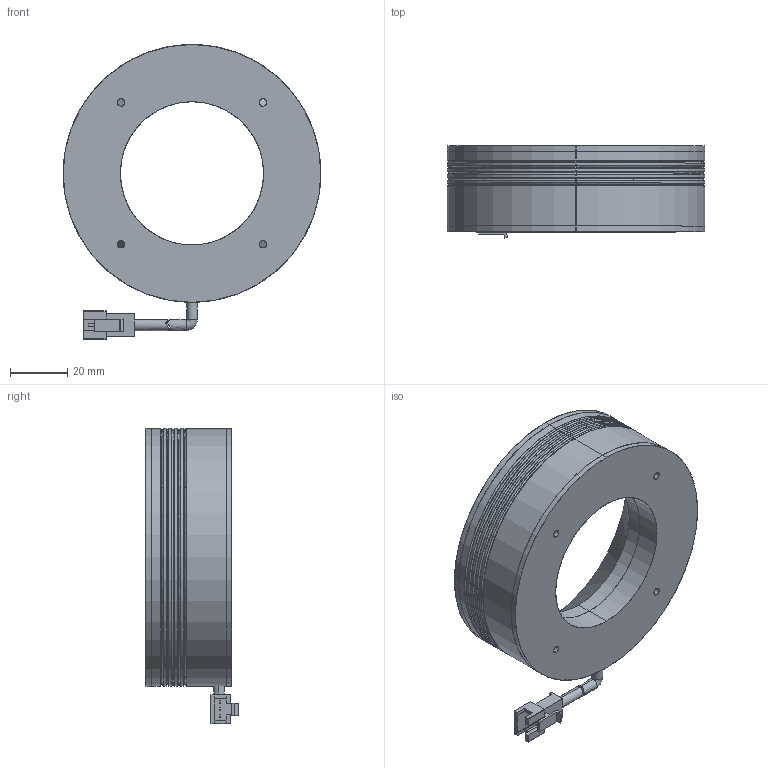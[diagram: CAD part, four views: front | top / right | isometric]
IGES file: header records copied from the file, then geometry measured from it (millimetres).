
Start section: SolidWorks IGES file using analytic representation for surfaces
Global section: file name: E:\SynologyDrive\新款图纸\标准产品\环光\环光45\R9045-50\ED\R9045-50.IGS; native system: SolidWorks 2020; preprocessor: SolidWorks 2020; author: Administrator; date: 200827.095006; units: millimetre
Bounding box: 90 x 32.15 x 103 mm (x, y, z)
Surface area: 55557.8 mm2 (no closed solid volume)
Topology: 0 solids, 0 shells, 353 faces, 5324 edges, 5292 vertices
Faces by surface type: bspline 191, revolution 162
